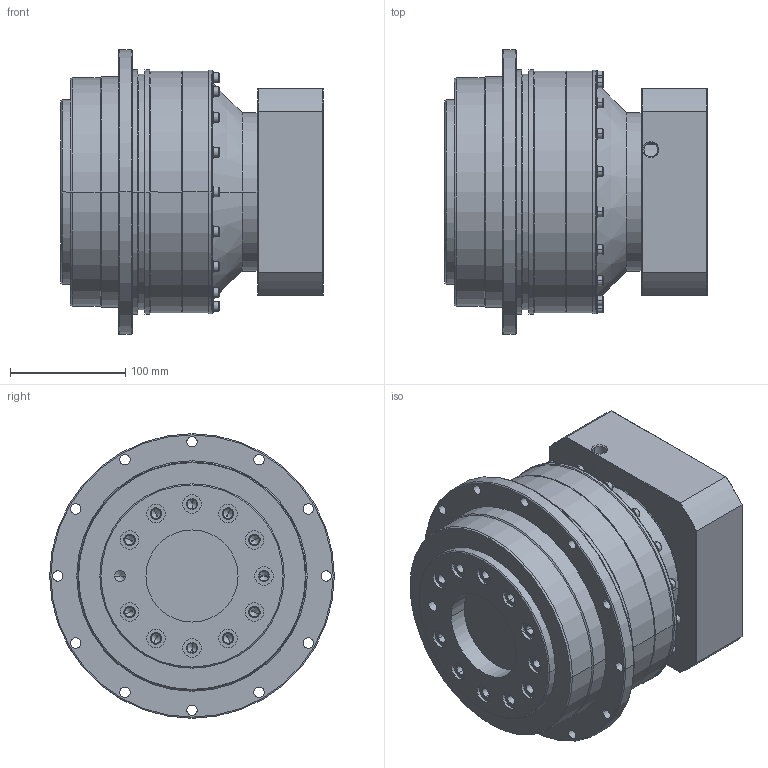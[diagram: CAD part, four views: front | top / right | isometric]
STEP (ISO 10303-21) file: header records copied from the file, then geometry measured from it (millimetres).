
FILE_DESCRIPTION((''),'2;1');
FILE_NAME('AD2001-P4160201_ASM','2006-05-22T',('D00080'),(''),'PRO/ENGINEER BY PARAMETRIC TECHNOLOGY CORPORATION, 2001280','PRO/ENGINEER BY PARAMETRIC TECHNOLOGY CORPORATION, 2001280','');
FILE_SCHEMA(('CONFIG_CONTROL_DESIGN'));
Length unit declared in the file: millimetre
Products named in the file (7): AD200-1; PK060001; 233100003; 220110615; COVER_SET1-AD-6_ASM; P4160201; AD2001-P4160201_ASM
Assembly tree (40 placements, depth 3):
  AD2001-P4160201_ASM
    AD200-1
    COVER_SET1-AD-6_ASM
      PK060001
      233100003  x18
      220110615  x18
    P4160201
Bounding box: 227.5 x 247 x 247 mm (x, y, z)
Volume: 6271924.9 mm3; surface area: 482528.4 mm2
Topology: 40 solids, 80 shells, 1305 faces, 2921 edges, 1756 vertices
Faces by surface type: cylinder 569, plane 418, cone 250, torus 68
Entity records: 19823 total; most frequent: DIRECTION 3857, CARTESIAN_POINT 3517, ORIENTED_EDGE 2870, AXIS2_PLACEMENT_3D 1642, EDGE_CURVE 1515, VERTEX_POINT 974, CIRCLE 893, EDGE_LOOP 845
